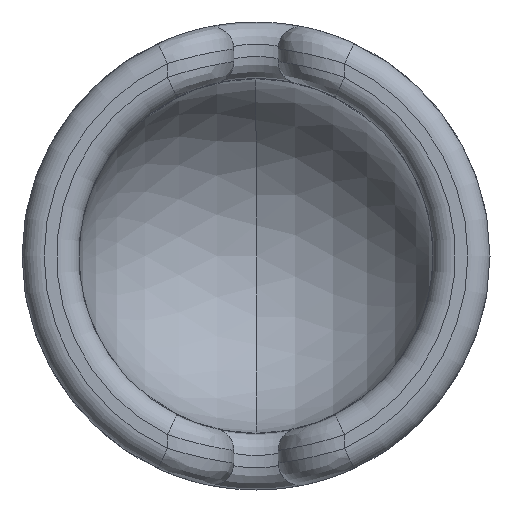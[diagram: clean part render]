
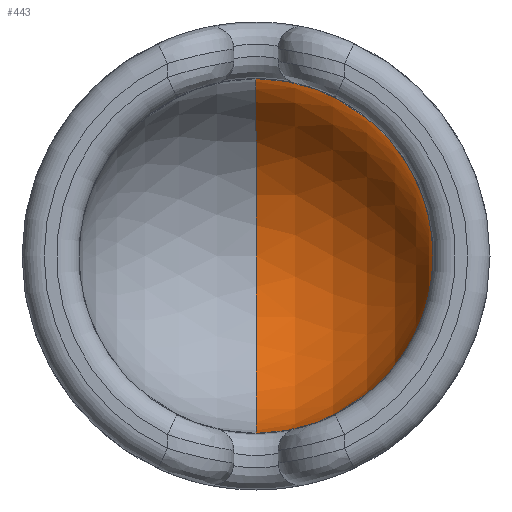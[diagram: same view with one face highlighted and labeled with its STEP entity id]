
A CAD part, front view. The second image highlights one B-rep face of the part: STEP entity #443.
In plain terms, the highlighted spherical face has radius 6.35 mm.
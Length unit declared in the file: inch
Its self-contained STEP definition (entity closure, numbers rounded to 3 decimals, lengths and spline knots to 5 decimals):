
#32 = CIRCLE ( 'NONE', #1110, 0.25 ) ;
#88 = DIRECTION ( 'NONE',  ( 1., 0., 0. ) ) ;
#405 = CARTESIAN_POINT ( 'NONE',  ( 0., 1.625, 0. ) ) ;
#443 = ADVANCED_FACE ( 'NONE', ( #1312 ), #780, .F. ) ;
#664 = ORIENTED_EDGE ( 'NONE', *, *, #2094, .F. ) ;
#780 = SPHERICAL_SURFACE ( 'NONE', #2992, 0.25 ) ;
#907 = VERTEX_POINT ( 'NONE', #1418 ) ;
#911 = EDGE_CURVE ( 'NONE', #1948, #3262, #32, .T. ) ;
#963 = DIRECTION ( 'NONE',  ( 0., 0., 1. ) ) ;
#1038 = CARTESIAN_POINT ( 'NONE',  ( 0., 1.625, 0. ) ) ;
#1110 = AXIS2_PLACEMENT_3D ( 'NONE', #1656, #88, #2757 ) ;
#1251 = DIRECTION ( 'NONE',  ( -1., 0., 0. ) ) ;
#1312 = FACE_OUTER_BOUND ( 'NONE', #3388, .T. ) ;
#1418 = CARTESIAN_POINT ( 'NONE',  ( 0., 1.625, 0.25 ) ) ;
#1443 = ORIENTED_EDGE ( 'NONE', *, *, #911, .F. ) ;
#1591 = CARTESIAN_POINT ( 'NONE',  ( 0., 1.875, 0. ) ) ;
#1656 = CARTESIAN_POINT ( 'NONE',  ( 0., 1.625, 0. ) ) ;
#1694 = CARTESIAN_POINT ( 'NONE',  ( 0., 1.625, 0. ) ) ;
#1705 = CIRCLE ( 'NONE', #2217, 0.25 ) ;
#1788 = DIRECTION ( 'NONE',  ( 0., 0., 1. ) ) ;
#1843 = CIRCLE ( 'NONE', #2349, 0.25 ) ;
#1948 = VERTEX_POINT ( 'NONE', #3238 ) ;
#2094 = EDGE_CURVE ( 'NONE', #907, #1948, #1843, .T. ) ;
#2217 = AXIS2_PLACEMENT_3D ( 'NONE', #1038, #3409, #1788 ) ;
#2277 = EDGE_CURVE ( 'NONE', #907, #3262, #1705, .T. ) ;
#2307 = DIRECTION ( 'NONE',  ( 0., 0., -1. ) ) ;
#2349 = AXIS2_PLACEMENT_3D ( 'NONE', #1694, #3289, #963 ) ;
#2611 = ORIENTED_EDGE ( 'NONE', *, *, #2277, .T. ) ;
#2757 = DIRECTION ( 'NONE',  ( 0., 0., -1. ) ) ;
#2992 = AXIS2_PLACEMENT_3D ( 'NONE', #405, #1251, #2307 ) ;
#3238 = CARTESIAN_POINT ( 'NONE',  ( 0., 1.625, -0.25 ) ) ;
#3262 = VERTEX_POINT ( 'NONE', #1591 ) ;
#3289 = DIRECTION ( 'NONE',  ( 0., 1., 0. ) ) ;
#3388 = EDGE_LOOP ( 'NONE', ( #664, #2611, #1443 ) ) ;
#3409 = DIRECTION ( 'NONE',  ( -1., 0., 0. ) ) ;
